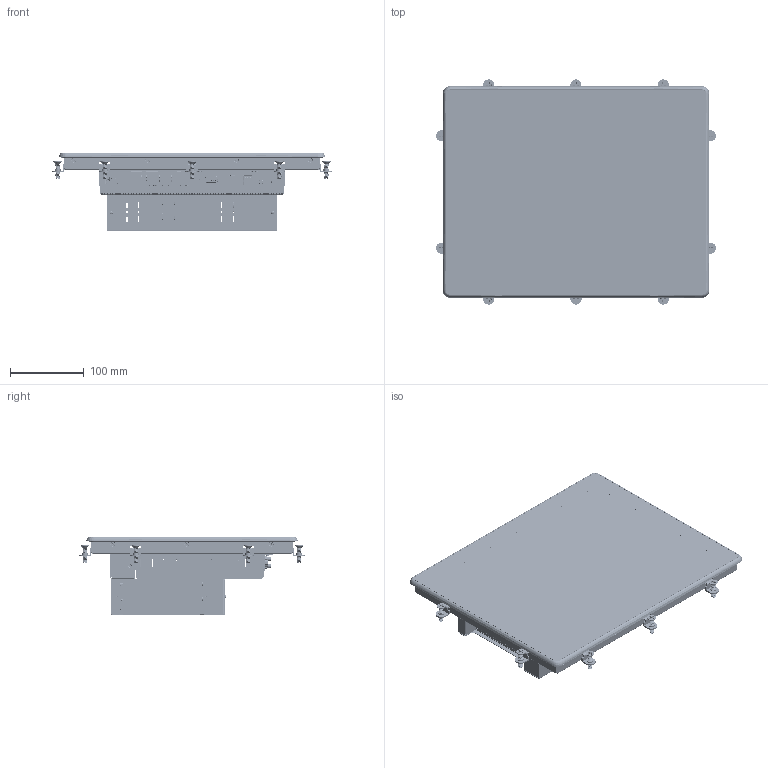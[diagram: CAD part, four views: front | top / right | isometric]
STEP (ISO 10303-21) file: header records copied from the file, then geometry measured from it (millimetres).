
FILE_DESCRIPTION((''),'2;1');
FILE_NAME('NP6A-150-Z','2026-06-02T11:19:03',('gijyu181'),(''),'CREO PARAMETRIC BY PTC INC, 2018050','CREO PARAMETRIC BY PTC INC, 2018050','');
FILE_SCHEMA(('CONFIG_CONTROL_DESIGN','SHAPE_APPEARANCE_LAYERS_GROUPS'));
Products named in the file (1): NP6A-150-Z
Bounding box: 378.6 x 304.6 x 106.1 mm (x, y, z)
Volume: 1295837 mm3; surface area: 1150603.8 mm2
Topology: 19 solids, 102 shells, 37746 faces, 110871 edges, 73201 vertices
Faces by surface type: plane 25380, cylinder 9482, extrusion 1476, cone 555, bspline 531, torus 231, sphere 87, revolution 4
Entity records: 1506583 total; most frequent: CARTESIAN_POINT 336148, ORIENTED_EDGE 220787, DIRECTION 196591, EDGE_CURVE 110809, VECTOR 86899, LINE 85423, VERTEX_POINT 73202, AXIS2_PLACEMENT_3D 54844
